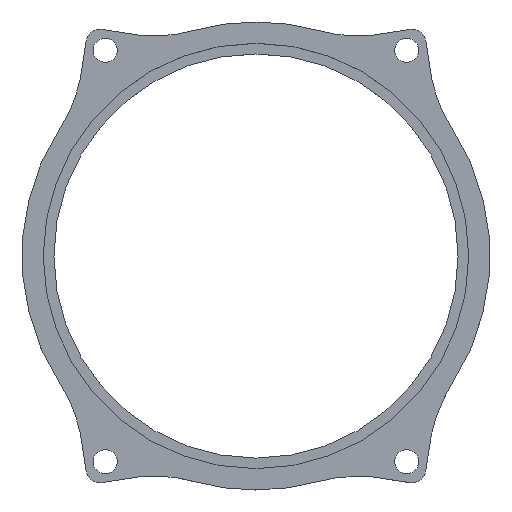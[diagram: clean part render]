
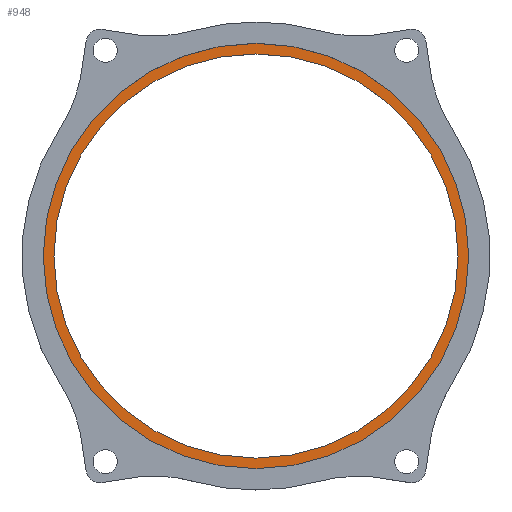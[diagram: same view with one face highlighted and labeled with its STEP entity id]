
A CAD part, top view. The second image highlights one B-rep face of the part: STEP entity #948.
In plain terms, the highlighted planar face has unit normal (0, 0, 1).
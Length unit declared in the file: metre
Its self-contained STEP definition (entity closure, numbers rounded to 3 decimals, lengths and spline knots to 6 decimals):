
#53=PLANE('',#1080);
#99=CIRCLE('',#1053,0.0381);
#122=CIRCLE('',#1081,0.036195);
#290=ORIENTED_EDGE('',*,*,#503,.T.);
#291=ORIENTED_EDGE('',*,*,#472,.T.);
#472=EDGE_CURVE('',#585,#585,#99,.F.);
#503=EDGE_CURVE('',#614,#614,#122,.T.);
#585=VERTEX_POINT('',#1578);
#614=VERTEX_POINT('',#1643);
#780=EDGE_LOOP('',(#290));
#781=EDGE_LOOP('',(#291));
#860=FACE_BOUND('',#780,.T.);
#861=FACE_BOUND('',#781,.T.);
#948=ADVANCED_FACE('',(#860,#861),#53,.F.);
#1053=AXIS2_PLACEMENT_3D('',#1577,#1281,#1282);
#1080=AXIS2_PLACEMENT_3D('',#1641,#1343,#1344);
#1081=AXIS2_PLACEMENT_3D('',#1642,#1345,#1346);
#1281=DIRECTION('',(0.,0.,-1.));
#1282=DIRECTION('',(-1.,0.,0.));
#1343=DIRECTION('',(0.,0.,-1.));
#1344=DIRECTION('',(1.,0.,0.));
#1345=DIRECTION('',(0.,0.,-1.));
#1346=DIRECTION('',(-1.,0.,0.));
#1577=CARTESIAN_POINT('',(0.,0.,0.));
#1578=CARTESIAN_POINT('',(-0.0381,0.,0.));
#1641=CARTESIAN_POINT('',(0.,0.,0.));
#1642=CARTESIAN_POINT('',(0.,0.,0.));
#1643=CARTESIAN_POINT('',(-0.036195,0.,0.));
